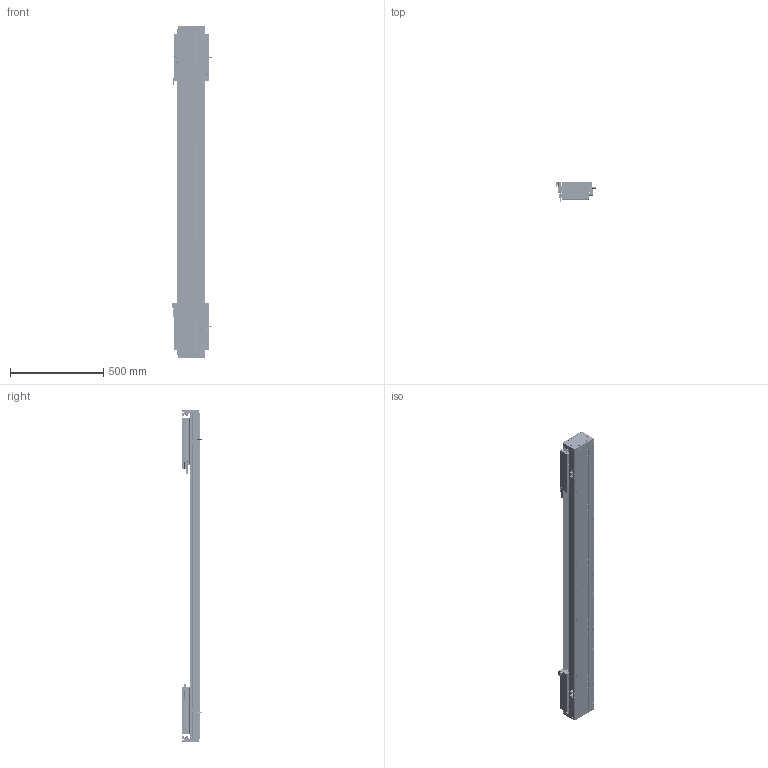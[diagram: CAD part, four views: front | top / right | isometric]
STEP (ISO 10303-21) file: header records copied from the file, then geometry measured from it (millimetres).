
FILE_DESCRIPTION (( 'STEP AP203' ), '1' );
FILE_NAME ('DA-C145-2-C3-T1160-C010-0.2 眻盄萇儂.STEP', '2025-08-13T10:19:36', ( '' ), ( '' ), 'SwSTEP 2.0', 'SolidWorks 2019', '' );
FILE_SCHEMA (( 'CONFIG_CONTROL_DESIGN' ));
Length unit declared in the file: millimetre
Products named in the file (38): 葩璃 DMA-010-0.2 黍杅芛^DA-C145-2-C3-T-C010-0.2; CU145-W 幗紩賑怢-1; 葩璃 鞠褒情蹟譫 M3^DA-C145-2-C3-T-C010-0.2; 复件 内六角平端紧定螺钉 GB.T77-2000 M5×10^CU145-W 滚珠滑台; 复件 DA95-HK-GT-00 滑块钢轨^CU145-W-00 一体化滑动台板; DA-C145-2-C3-T1160-C010-0.2 眻盄萇儂; 复件 DA146 钢带拉块^复件 CU145 钢带组件_DA-C145-2-C3-T-C010-0.2; 葩璃 XD-U-02L 棠掑喜^DA-C145-2-C3-T-C010-0.2; CU145-W 幗紩賑怢; 葩璃 CKM03-W060-C1C2-TP-0.2^DA-C145-2-C3-T-C010-0.2; 葩璃 PM-Y65^DA-C145-2-C3-T-C010-0.2; DKW-GYP-ZJ-00 笢潔嫖萇覜茼え; IU-CU145-L-00 菁釱(L1740); 葩璃 DA145-C3-DP-B-00 菜えB^CU145-W 幗紩賑怢; CU145-W-00 珨极趙賑雄怢啣-1; 复件 纯铜油杯 6x6mm^CU145-W 滚珠滑台; 复件 DA145-C3-DK-00 挡块^CU145-W 滚珠滑台; 葩璃 PM-T45^DA-C145-2-C3-T-C010-0.2; 复件 DA95-DB-00  挡板^CU145-W 滚珠滑台; CU145-W-00 珨极趙賑雄怢啣; 复件 DA145 钢带^复件 CU145 钢带组件_DA-C145-2-C3-T-C010-0.2; TAY01-M8; 葩璃 CU145 詩湍郪璃^DA-C145-2-C3-T-C010-0.2; 复件 DA146 钢带垫块^复件 CU145 钢带组件_DA-C145-2-C3-T-C010-0.2; 复件 DA145-C3-YB-B-00 压板B^CU145-W 滚珠滑台; 复件 DA145-GYP-00 光电感应片^DA-C145-2-C3-T-C010-0.2; 葩璃 CKMA01-W060-TRL^DA-C145-2-C3-T-C010-0.2; IU-CU145-L 菁釱絳寢; 复件 DA145-DG 钢带端盖^复件 CU145 钢带组件_DA-C145-2-C3-T-C010-0.2; 葩璃 DA95-GT-T-00^IU-CU145-L 菁釱絳寢; 葩璃 DA145-C3-DP-A-00 菜えA^CU145-W 幗紩賑怢; 葩璃 DA95-HXJ-00 遣喳砎蝶^DA-C145-2-C3-T-C010-0.2; 复件 DA145-C3-YB-A-00 压板A^CU145-W 滚珠滑台; 复件 DA95-MFP-01 密封片^CU145-W 滚珠滑台; 66245-CU145-HT-W-00 賑雄怢啣(3D芞祧)(00); DKW168-HXJ-ZJ-00 笢潔滅袉砎蝶; DKW-KGZ-ZJ-00 中间光电开关支架; 复件 半圆头内六角螺钉 M3×6^CU145-W 滚珠滑台
Assembly tree (180 placements, depth 4):
  DA-C145-2-C3-T1160-C010-0.2 眻盄萇儂
    IU-CU145-L 菁釱絳寢
      IU-CU145-L-00 菁釱(L1740)
      葩璃 DA95-GT-T-00^IU-CU145-L 菁釱絳寢  x4
    葩璃 CU145 詩湍郪璃^DA-C145-2-C3-T-C010-0.2
      复件 DA145-DG 钢带端盖^复件 CU145 钢带组件_DA-C145-2-C3-T-C010-0.2  x2
      复件 DA146 钢带拉块^复件 CU145 钢带组件_DA-C145-2-C3-T-C010-0.2  x2
      复件 DA146 钢带垫块^复件 CU145 钢带组件_DA-C145-2-C3-T-C010-0.2  x2
      复件 DA145 钢带^复件 CU145 钢带组件_DA-C145-2-C3-T-C010-0.2
    CU145-W 幗紩賑怢
      CU145-W-00 珨极趙賑雄怢啣
        66245-CU145-HT-W-00 賑雄怢啣(3D芞祧)(00)
        复件 DA95-HK-GT-00 滑块钢轨^CU145-W-00 一体化滑动台板  x8
      复件 DA95-MFP-01 密封片^CU145-W 滚珠滑台  x8
      复件 DA95-DB-00  挡板^CU145-W 滚珠滑台  x8
      复件 内六角平端紧定螺钉 GB.T77-2000 M5×10^CU145-W 滚珠滑台  x4
      复件 纯铜油杯 6x6mm^CU145-W 滚珠滑台  x4
      复件 半圆头内六角螺钉 M3×6^CU145-W 滚珠滑台  x16
      复件 DA145-C3-DK-00 挡块^CU145-W 滚珠滑台  x4
      葩璃 DA145-C3-DP-B-00 菜えB^CU145-W 幗紩賑怢  x2
      复件 DA145-C3-YB-B-00 压板B^CU145-W 滚珠滑台  x2
      葩璃 DA145-C3-DP-A-00 菜えA^CU145-W 幗紩賑怢  x3
      复件 DA145-C3-YB-A-00 压板A^CU145-W 滚珠滑台  x3
      TAY01-M8  x4
    CU145-W 幗紩賑怢-1
      CU145-W-00 珨极趙賑雄怢啣-1
        66245-CU145-HT-W-00 賑雄怢啣(3D芞祧)(00)
        复件 DA95-HK-GT-00 滑块钢轨^CU145-W-00 一体化滑动台板  x8
      复件 DA95-MFP-01 密封片^CU145-W 滚珠滑台  x8
      复件 DA95-DB-00  挡板^CU145-W 滚珠滑台  x8
      复件 内六角平端紧定螺钉 GB.T77-2000 M5×10^CU145-W 滚珠滑台  x4
      复件 纯铜油杯 6x6mm^CU145-W 滚珠滑台  x4
      复件 半圆头内六角螺钉 M3×6^CU145-W 滚珠滑台  x16
      复件 DA145-C3-DK-00 挡块^CU145-W 滚珠滑台  x4
      葩璃 DA145-C3-DP-B-00 菜えB^CU145-W 幗紩賑怢  x2
      复件 DA145-C3-YB-B-00 压板B^CU145-W 滚珠滑台  x2
      葩璃 DA145-C3-DP-A-00 菜えA^CU145-W 幗紩賑怢  x3
      复件 DA145-C3-YB-A-00 压板A^CU145-W 滚珠滑台  x3
      TAY01-M8  x4
    葩璃 CKMA01-W060-TRL^DA-C145-2-C3-T-C010-0.2
    葩璃 PM-T45^DA-C145-2-C3-T-C010-0.2  x4
    葩璃 XD-U-02L 棠掑喜^DA-C145-2-C3-T-C010-0.2
    葩璃 DA95-HXJ-00 遣喳砎蝶^DA-C145-2-C3-T-C010-0.2  x4
    葩璃 CKM03-W060-C1C2-TP-0.2^DA-C145-2-C3-T-C010-0.2  x2
    葩璃 DMA-010-0.2 黍杅芛^DA-C145-2-C3-T-C010-0.2  x2
    复件 DA145-GYP-00 光电感应片^DA-C145-2-C3-T-C010-0.2  x2
    DKW-GYP-ZJ-00 笢潔嫖萇覜茼え
    DKW-KGZ-ZJ-00 中间光电开关支架
    葩璃 PM-Y65^DA-C145-2-C3-T-C010-0.2
    葩璃 鞠褒情蹟譫 M3^DA-C145-2-C3-T-C010-0.2  x8
    DKW168-HXJ-ZJ-00 笢潔滅袉砎蝶
Bounding box: 213.7 x 108.45 x 1776 mm (x, y, z)
Volume: 11010072 mm3; surface area: 3322309.9 mm2
Topology: 175 solids, 239 shells, 7244 faces, 19119 edges, 11765 vertices
Faces by surface type: cylinder 2967, plane 2937, cone 1184, torus 140, sphere 8, bspline 8
Entity records: 120710 total; most frequent: CARTESIAN_POINT 32036, ORIENTED_EDGE 16924, DIRECTION 16695, EDGE_CURVE 8462, AXIS2_PLACEMENT_3D 6107, VERTEX_POINT 5464, VECTOR 4481, LINE 4481
